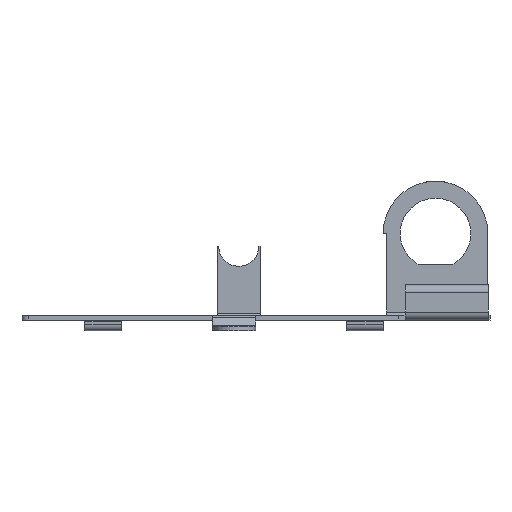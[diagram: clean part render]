
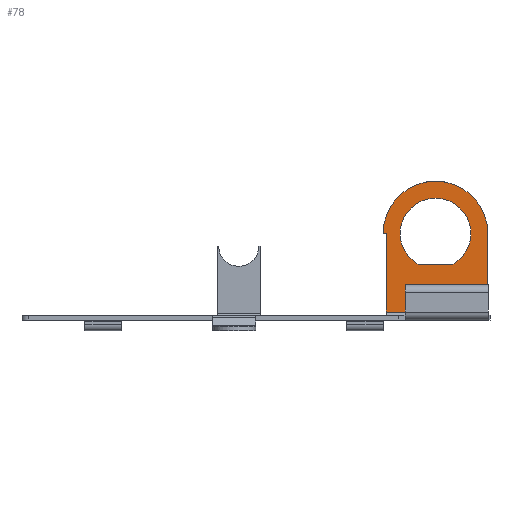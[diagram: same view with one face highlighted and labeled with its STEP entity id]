
A CAD part, left-side view. The second image highlights one B-rep face of the part: STEP entity #78.
In plain terms, the highlighted planar face has unit normal (-1, 0, -0.009).
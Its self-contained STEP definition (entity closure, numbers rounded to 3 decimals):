
#78 = ADVANCED_FACE( '', ( #268, #269 ), #270, .F. );
#268 = FACE_BOUND( '', #661, .T. );
#269 = FACE_OUTER_BOUND( '', #662, .T. );
#270 = PLANE( '', #663 );
#661 = EDGE_LOOP( '', ( #1133, #1134 ) );
#662 = EDGE_LOOP( '', ( #1135, #1136, #1137, #1138, #1139 ) );
#663 = AXIS2_PLACEMENT_3D( '', #1140, #1141, #1142 );
#1133 = ORIENTED_EDGE( '', *, *, #2604, .T. );
#1134 = ORIENTED_EDGE( '', *, *, #2605, .T. );
#1135 = ORIENTED_EDGE( '', *, *, #2606, .F. );
#1136 = ORIENTED_EDGE( '', *, *, #2607, .T. );
#1137 = ORIENTED_EDGE( '', *, *, #2608, .F. );
#1138 = ORIENTED_EDGE( '', *, *, #2609, .F. );
#1139 = ORIENTED_EDGE( '', *, *, #2610, .F. );
#1140 = CARTESIAN_POINT( '', ( 43.428, 76.4, -84.306 ) );
#1141 = DIRECTION( '', ( 1., 0., 0.009 ) );
#1142 = DIRECTION( '', ( 0.009, 0., -1. ) );
#2604 = EDGE_CURVE( '', #3176, #3177, #3178, .T. );
#2605 = EDGE_CURVE( '', #3177, #3176, #3179, .T. );
#2606 = EDGE_CURVE( '', #3180, #3181, #3182, .T. );
#2607 = EDGE_CURVE( '', #3180, #3183, #3184, .T. );
#2608 = EDGE_CURVE( '', #3185, #3183, #3186, .T. );
#2609 = EDGE_CURVE( '', #3187, #3185, #3188, .T. );
#2610 = EDGE_CURVE( '', #3181, #3187, #3189, .T. );
#3176 = VERTEX_POINT( '', #4027 );
#3177 = VERTEX_POINT( '', #4028 );
#3178 = LINE( '', #4029, #4030 );
#3179 = CIRCLE( '', #4031, 11.5 );
#3180 = VERTEX_POINT( '', #4032 );
#3181 = VERTEX_POINT( '', #4033 );
#3182 = LINE( '', #4034, #4035 );
#3183 = VERTEX_POINT( '', #4036 );
#3184 = LINE( '', #4037, #4038 );
#3185 = VERTEX_POINT( '', #4039 );
#3186 = LINE( '', #4040, #4041 );
#3187 = VERTEX_POINT( '', #4042 );
#3188 = CIRCLE( '', #4043, 17. );
#3189 = LINE( '', #4044, #4045 );
#4027 = CARTESIAN_POINT( '', ( 42.535, -63.579, 18.09 ) );
#4028 = CARTESIAN_POINT( '', ( 42.535, -52.221, 18.09 ) );
#4029 = CARTESIAN_POINT( '', ( 42.535, 76.4, 18.09 ) );
#4030 = VECTOR( '', #5084, 1000. );
#4031 = AXIS2_PLACEMENT_3D( '', #5085, #5086, #5087 );
#4032 = CARTESIAN_POINT( '', ( 42.67, -41.9, 2.61 ) );
#4033 = CARTESIAN_POINT( '', ( 42.448, -41.9, 28.089 ) );
#4034 = CARTESIAN_POINT( '', ( 42.692, -41.9, 0.09 ) );
#4035 = VECTOR( '', #5088, 1000. );
#4036 = CARTESIAN_POINT( '', ( 42.67, -74.9, 2.61 ) );
#4037 = CARTESIAN_POINT( '', ( 42.67, -41.9, 2.61 ) );
#4038 = VECTOR( '', #5089, 1000. );
#4039 = CARTESIAN_POINT( '', ( 42.448, -74.9, 28.089 ) );
#4040 = CARTESIAN_POINT( '', ( 42.448, -74.9, 28.089 ) );
#4041 = VECTOR( '', #5090, 1000. );
#4042 = CARTESIAN_POINT( '', ( 42.448, -40.9, 28.089 ) );
#4043 = AXIS2_PLACEMENT_3D( '', #5091, #5092, #5093 );
#4044 = CARTESIAN_POINT( '', ( 42.448, -41.9, 28.089 ) );
#4045 = VECTOR( '', #5094, 1000. );
#5084 = DIRECTION( '', ( 0., 1., 0. ) );
#5085 = CARTESIAN_POINT( '', ( 42.448, -57.9, 28.089 ) );
#5086 = DIRECTION( '', ( 1., 0., 0.009 ) );
#5087 = DIRECTION( '', ( 0.009, 0., -1. ) );
#5088 = DIRECTION( '', ( -0.009, 0., 1. ) );
#5089 = DIRECTION( '', ( 0., -1., 0. ) );
#5090 = DIRECTION( '', ( 0.009, 0., -1. ) );
#5091 = CARTESIAN_POINT( '', ( 42.448, -57.9, 28.089 ) );
#5092 = DIRECTION( '', ( 1., 0., 0.009 ) );
#5093 = DIRECTION( '', ( 0.009, 0., -1. ) );
#5094 = DIRECTION( '', ( 0., 1., 0. ) );
